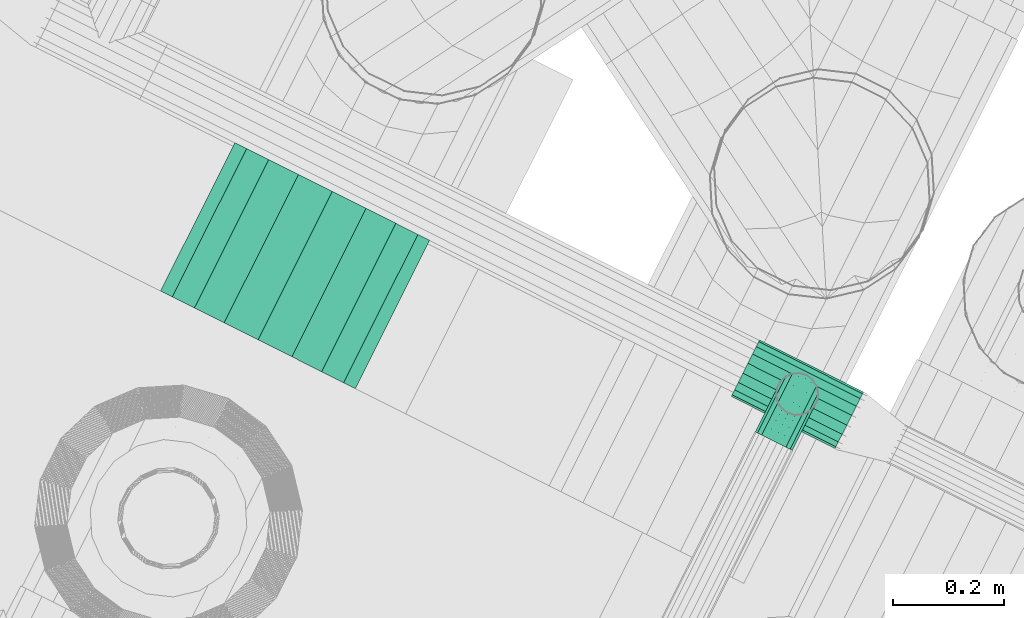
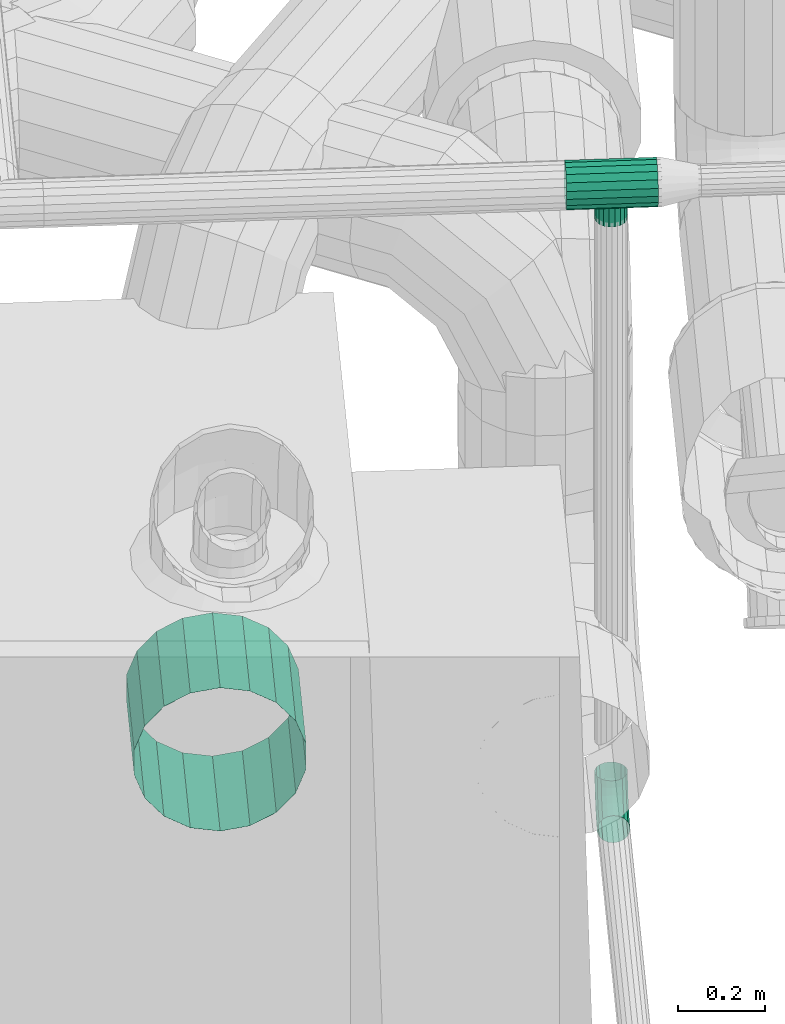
# One storey, part 130 of 206: 3 flow segments, 1 flow fitting.
"""IFC2X3 building model written with IfcOpenShell, lengths in metres."""

from ifc_helpers import new_model, si_unit, derived_unit, direction, frame, origin, place, context, subcontext, project, spatial, face_set, surface_model, source, transform, mapped, material, type_object, type_shapes, element, save


model = new_model("IFC2X3")

# Units and contexts
model_context = context("Model", 3, precision=5.2338327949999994e-05, world=origin(), true_north=direction((0.0, 1.0)))
body_context = subcontext(model_context, "Body", "Model", "MODEL_VIEW")
ifc_project = project(units=[si_unit("LENGTHUNIT", "METRE"), si_unit("AREAUNIT", "SQUARE_METRE"), si_unit("VOLUMEUNIT", "CUBIC_METRE"), si_unit("MASSUNIT", "GRAM", prefix="KILO"), si_unit("PLANEANGLEUNIT", "RADIAN"), derived_unit("THERMALTRANSMITTANCEUNIT", [(si_unit("MASSUNIT", "GRAM", prefix="KILO"), 1), (si_unit("THERMODYNAMICTEMPERATUREUNIT", "KELVIN"), -1), (si_unit("TIMEUNIT", "SECOND"), -3)])], contexts=[model_context])

# Site, building, storey
site_placement = place(None, frame((0.0, 0.0, 0.0), z_axis=(0.0, 0.0, 1.0), x_axis=(0.8939966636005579, -0.4480736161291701, 0.0)))
site = spatial("IfcSite", under=ifc_project, at=site_placement, Name="Default", CompositionType="ELEMENT")
building_placement = place(site_placement, origin())
building = spatial("IfcBuilding", under=site, at=building_placement, CompositionType="ELEMENT")
storey_placement = place(building_placement, origin())
storey = spatial("IfcBuildingStorey", under=building, at=storey_placement, Name="Erdgeschoss", CompositionType="ELEMENT", Elevation=0.0)

# Flow segments
ifc_material_1 = material(Name="IfcSurfaceStyle #352577")
distribution_element_type_1 = type_object("IfcDistributionElementType", Name="Rohrbogen 605026:Rohrbogen 605026", material=ifc_material_1)
shared_shape_1 = source(origin(), body_context, "Body", "SurfaceModel", [
    surface_model("IfcFaceBasedSurfaceModel", [(25.090640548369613, 7.9821629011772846, 0.8319499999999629), (25.07762668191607, 7.9821629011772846, 0.8342446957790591), (25.07762668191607, 8.022568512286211, 0.8406443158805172), (25.090640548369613, 8.023277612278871, 0.8384619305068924), (25.077626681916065, 8.059018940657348, 0.8592167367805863), (25.090640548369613, 8.060367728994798, 0.8573602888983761), (25.07762668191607, 8.087946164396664, 0.8881439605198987), (25.090640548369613, 8.08980261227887, 0.8867951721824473), (25.077626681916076, 8.106518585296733, 0.924594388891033), (25.090640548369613, 8.108700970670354, 0.9238852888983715), (25.077626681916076, 8.112918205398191, 0.9649999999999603), (25.090640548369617, 8.115212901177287, 0.9649999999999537), (25.066182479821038, 7.9821629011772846, 0.8408520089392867), (25.066182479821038, 8.020526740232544, 0.8469282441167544), (25.066182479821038, 8.055135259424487, 0.8645621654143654), (25.06618247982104, 8.082600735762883, 0.8920276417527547), (25.06618247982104, 8.100234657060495, 0.9266361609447), (25.06618247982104, 8.106310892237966, 0.9649999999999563), (25.057688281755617, 7.982162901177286, 0.8509749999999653), (25.057688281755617, 8.017398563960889, 0.8565557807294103), (25.057688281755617, 8.049185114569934, 0.8727518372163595), (25.057688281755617, 8.074411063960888, 0.8979777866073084), (25.05768828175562, 8.090607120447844, 0.9297643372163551), (25.05768828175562, 8.096187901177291, 0.9649999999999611), (25.0531686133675, 7.982162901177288, 0.8633926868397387), (25.0531686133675, 8.013561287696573, 0.8683657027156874), (25.0531686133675, 8.04188618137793, 0.8827979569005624), (25.0531686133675, 8.064364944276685, 0.9052767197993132), (25.053168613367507, 8.078797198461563, 0.93360161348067), (25.053168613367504, 8.083770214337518, 0.964999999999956), (25.0531686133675, 7.982162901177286, 0.8766073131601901), (25.0531686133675, 8.00947774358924, 0.880933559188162), (25.0531686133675, 8.034118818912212, 0.8934888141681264), (25.0531686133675, 8.053674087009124, 0.9130440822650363), (25.0531686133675, 8.066229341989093, 0.9376851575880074), (25.0531686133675, 8.070555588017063, 0.9649999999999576), (25.057688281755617, 7.982162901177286, 0.8890249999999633), (25.057688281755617, 8.005640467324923, 0.892743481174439), (25.05768828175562, 8.02681988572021, 0.9035349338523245), (25.05768828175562, 8.043627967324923, 0.9203430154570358), (25.057688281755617, 8.054419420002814, 0.941522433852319), (25.05768828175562, 8.058137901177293, 0.964999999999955), (25.066182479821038, 7.982162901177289, 0.8991479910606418), (25.066182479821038, 8.002512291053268, 0.9023710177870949), (25.06618247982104, 8.02086974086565, 0.9117246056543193), (25.066182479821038, 8.03543829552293, 0.9262931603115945), (25.06618247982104, 8.04479188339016, 0.944650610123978), (25.066182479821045, 8.048014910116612, 0.9649999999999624), (25.077626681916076, 7.982162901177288, 0.9057553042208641), (25.07762668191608, 8.000470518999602, 0.9086549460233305), (25.077626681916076, 8.016986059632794, 0.917070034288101), (25.077626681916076, 8.03009286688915, 0.9301768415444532), (25.077626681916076, 8.038507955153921, 0.9466923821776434), (25.077626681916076, 8.041407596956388, 0.9649999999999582), (25.090640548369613, 7.982162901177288, 0.9080499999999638), (25.090640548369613, 7.99976141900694, 0.9108373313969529), (25.090640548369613, 8.015637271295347, 0.91892648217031), (25.090640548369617, 8.02823641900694, 0.9315256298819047), (25.090640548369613, 8.036325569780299, 0.9474014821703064), (25.090640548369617, 8.03911290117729, 0.964999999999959), (25.103654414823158, 7.982162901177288, 0.9057553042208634), (25.10365441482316, 8.000470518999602, 0.9086549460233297), (25.103654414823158, 8.016986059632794, 0.9170700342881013), (25.103654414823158, 8.030092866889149, 0.9301768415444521), (25.103654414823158, 8.038507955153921, 0.9466923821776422), (25.10365441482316, 8.041407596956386, 0.9649999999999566), (25.11509861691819, 7.982162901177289, 0.8991479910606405), (25.11509861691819, 8.00251229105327, 0.9023710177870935), (25.11509861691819, 8.02086974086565, 0.9117246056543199), (25.11509861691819, 8.035438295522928, 0.9262931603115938), (25.11509861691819, 8.044791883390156, 0.944650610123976), (25.11509861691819, 8.048014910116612, 0.9649999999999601), (25.12359281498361, 7.982162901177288, 0.8890249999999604), (25.12359281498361, 8.005640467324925, 0.8927434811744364), (25.12359281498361, 8.02681988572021, 0.903534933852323), (25.12359281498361, 8.043627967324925, 0.9203430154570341), (25.12359281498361, 8.054419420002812, 0.9415224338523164), (25.123592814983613, 8.05813790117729, 0.9649999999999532), (25.12811248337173, 7.982162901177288, 0.8766073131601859), (25.12811248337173, 8.009477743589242, 0.8809335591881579), (25.12811248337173, 8.034118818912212, 0.8934888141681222), (25.12811248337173, 8.053674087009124, 0.9130440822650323), (25.12811248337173, 8.066229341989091, 0.9376851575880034), (25.128112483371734, 8.070555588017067, 0.9649999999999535), (25.12811248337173, 7.982162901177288, 0.8633926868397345), (25.12811248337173, 8.013561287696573, 0.8683657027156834), (25.12811248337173, 8.041886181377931, 0.8827979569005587), (25.12811248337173, 8.064364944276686, 0.9052767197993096), (25.128112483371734, 8.078797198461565, 0.9336016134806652), (25.128112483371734, 8.083770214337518, 0.9649999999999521), (25.12359281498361, 7.982162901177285, 0.8509749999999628), (25.12359281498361, 8.01739856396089, 0.8565557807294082), (25.12359281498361, 8.049185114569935, 0.8727518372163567), (25.12359281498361, 8.07441106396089, 0.8979777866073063), (25.123592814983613, 8.090607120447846, 0.9297643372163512), (25.123592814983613, 8.096187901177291, 0.9649999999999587), (25.115098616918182, 7.9821629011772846, 0.8408520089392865), (25.115098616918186, 8.020526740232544, 0.8469282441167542), (25.115098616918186, 8.055135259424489, 0.8645621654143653), (25.11509861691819, 8.082600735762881, 0.8920276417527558), (25.11509861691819, 8.100234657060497, 0.926636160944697), (25.11509861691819, 8.106310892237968, 0.9649999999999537), (25.10365441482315, 7.982162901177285, 0.8342446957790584), (25.10365441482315, 8.022568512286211, 0.8406443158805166), (25.10365441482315, 8.059018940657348, 0.8592167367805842), (25.103654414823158, 8.087946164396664, 0.8881439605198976), (25.103654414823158, 8.106518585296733, 0.9245943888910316), (25.103654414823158, 8.112918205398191, 0.9649999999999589)], [face_set([[[0, 1, 2, 3]], [[3, 2, 4, 5]], [[5, 4, 6, 7]], [[7, 6, 8, 9]], [[9, 8, 10, 11]], [[1, 12, 13, 2]], [[2, 13, 14, 4]], [[4, 14, 15, 6]], [[6, 15, 16, 8]], [[8, 16, 17, 10]], [[12, 18, 19, 13]], [[13, 19, 20, 14]], [[14, 20, 21, 15]], [[15, 21, 22, 16]], [[16, 22, 23, 17]], [[18, 24, 25, 19]], [[19, 25, 26, 20]], [[20, 26, 27, 21]], [[21, 27, 28, 22]], [[22, 28, 29, 23]], [[24, 30, 31, 25]], [[25, 31, 32, 26]], [[26, 32, 33, 27]], [[27, 33, 34, 28]], [[28, 34, 35, 29]], [[30, 36, 37, 31]], [[31, 37, 38, 32]], [[32, 38, 39, 33]], [[33, 39, 40, 34]], [[34, 40, 41, 35]], [[36, 42, 43, 37]], [[37, 43, 44, 38]], [[38, 44, 45, 39]], [[39, 45, 46, 40]], [[40, 46, 47, 41]], [[42, 48, 49, 43]], [[43, 49, 50, 44]], [[44, 50, 51, 45]], [[45, 51, 52, 46]], [[46, 52, 53, 47]], [[48, 54, 55, 49]], [[49, 55, 56, 50]], [[50, 56, 57, 51]], [[51, 57, 58, 52]], [[52, 58, 59, 53]], [[54, 60, 61, 55]], [[55, 61, 62, 56]], [[56, 62, 63, 57]], [[57, 63, 64, 58]], [[58, 64, 65, 59]], [[60, 66, 67, 61]], [[61, 67, 68, 62]], [[62, 68, 69, 63]], [[63, 69, 70, 64]], [[64, 70, 71, 65]], [[66, 72, 73, 67]], [[67, 73, 74, 68]], [[68, 74, 75, 69]], [[69, 75, 76, 70]], [[70, 76, 77, 71]], [[72, 78, 79, 73]], [[73, 79, 80, 74]], [[74, 80, 81, 75]], [[75, 81, 82, 76]], [[76, 82, 83, 77]], [[78, 84, 85, 79]], [[79, 85, 86, 80]], [[80, 86, 87, 81]], [[81, 87, 88, 82]], [[82, 88, 89, 83]], [[84, 90, 91, 85]], [[85, 91, 92, 86]], [[86, 92, 93, 87]], [[87, 93, 94, 88]], [[88, 94, 95, 89]], [[90, 96, 97, 91]], [[91, 97, 98, 92]], [[92, 98, 99, 93]], [[93, 99, 100, 94]], [[94, 100, 101, 95]], [[96, 102, 103, 97]], [[97, 103, 104, 98]], [[98, 104, 105, 99]], [[99, 105, 106, 100]], [[100, 106, 107, 101]], [[102, 0, 3, 103]], [[103, 3, 5, 104]], [[104, 5, 7, 105]], [[105, 7, 9, 106]], [[106, 9, 11, 107]]])]),
])
type_shapes(distribution_element_type_1, [shared_shape_1])
flow_segment_1_placement = place(storey_placement, origin())
element("IfcFlowSegment", 1, at=flow_segment_1_placement, inside=storey, type_object=distribution_element_type_1, material=ifc_material_1, Name="Rohrbogen", ObjectType="Rohrbogen", context=body_context, shape_type="MappedRepresentation", body=[
    mapped(shared_shape_1, transform((0.0, 0.0, 0.0), scale=1.0)),
])
ifc_material_2 = material(Name="IfcSurfaceStyle #251447")
distribution_element_type_2 = type_object("IfcDistributionElementType", material=ifc_material_2)
shared_shape_2 = source(origin(), body_context, "Body", "SurfaceModel", [
    surface_model("IfcFaceBasedSurfaceModel", [(24.17482169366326, 7.728208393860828, 1.4800000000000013), (24.243225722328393, 7.728208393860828, 1.4679385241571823), (24.243225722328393, 8.028208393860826, 1.4679385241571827), (24.174821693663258, 8.028208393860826, 1.4800000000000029), (24.303379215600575, 7.728208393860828, 1.4332088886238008), (24.303379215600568, 8.028208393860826, 1.4332088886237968), (24.348026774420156, 7.728208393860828, 1.380000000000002), (24.348026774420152, 8.028208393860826, 1.379999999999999), (24.371783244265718, 7.728208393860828, 1.3147296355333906), (24.3717832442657, 8.028208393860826, 1.3147296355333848), (24.371783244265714, 7.728208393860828, 1.2452703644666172), (24.371783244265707, 8.028208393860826, 1.2452703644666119), (24.348026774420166, 7.728208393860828, 1.1800000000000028), (24.348026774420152, 8.028208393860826, 1.1799999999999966), (24.30337921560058, 7.728208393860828, 1.1267911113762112), (24.303379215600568, 8.028208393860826, 1.1267911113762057), (24.243225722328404, 7.728208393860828, 1.092061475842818), (24.24322572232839, 8.028208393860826, 1.0920614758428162), (24.174821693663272, 7.728208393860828, 1.079999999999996), (24.174821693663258, 8.028208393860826, 1.08), (24.10641766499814, 7.728208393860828, 1.092061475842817), (24.106417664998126, 8.028208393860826, 1.0920614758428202), (24.046264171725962, 7.728208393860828, 1.1267911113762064), (24.046264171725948, 8.028208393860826, 1.1267911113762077), (24.001616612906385, 7.728208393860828, 1.179999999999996), (24.00161661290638, 8.028208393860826, 1.1800000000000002), (23.97786014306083, 7.728208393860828, 1.2452703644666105), (23.97786014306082, 8.028208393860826, 1.245270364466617), (23.97786014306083, 7.728208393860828, 1.3147296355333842), (23.97786014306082, 8.028208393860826, 1.3147296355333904), (24.001616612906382, 7.728208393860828, 1.3799999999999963), (24.00161661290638, 8.028208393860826, 1.3800000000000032), (24.046264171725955, 7.728208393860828, 1.4332088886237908), (24.046264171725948, 8.028208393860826, 1.4332088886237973), (24.10641766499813, 7.728208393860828, 1.467938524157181), (24.10641766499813, 8.028208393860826, 1.4679385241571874)], [face_set([[[0, 1, 2, 3]], [[1, 4, 5, 2]], [[4, 6, 7, 5]], [[6, 8, 9, 7]], [[8, 10, 11, 9]], [[10, 12, 13, 11]], [[12, 14, 15, 13]], [[14, 16, 17, 15]], [[16, 18, 19, 17]], [[18, 20, 21, 19]], [[20, 22, 23, 21]], [[22, 24, 25, 23]], [[24, 26, 27, 25]], [[26, 28, 29, 27]], [[28, 30, 31, 29]], [[30, 32, 33, 31]], [[32, 34, 35, 33]], [[34, 0, 3, 35]]])]),
])
type_shapes(distribution_element_type_2, [shared_shape_2])
flow_segment_2_placement = place(storey_placement, origin())
element("IfcFlowSegment", 2, at=flow_segment_2_placement, inside=storey, type_object=distribution_element_type_2, material=ifc_material_2, Name="Wickelfalzrohr", ObjectType="Wickelfalzrohr", context=body_context, shape_type="MappedRepresentation", body=[
    mapped(shared_shape_2, transform((0.0, 0.0, 0.0), scale=1.0)),
])
distribution_element_type_3 = type_object("IfcDistributionElementType", material=ifc_material_2)
shared_shape_3 = source(origin(), body_context, "Body", "SurfaceModel", [
    surface_model("IfcFaceBasedSurfaceModel", [(24.17482169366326, 7.728208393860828, 1.4800000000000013), (24.243225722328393, 7.728208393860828, 1.4679385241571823), (24.243225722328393, 8.028208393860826, 1.4679385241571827), (24.174821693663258, 8.028208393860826, 1.4800000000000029), (24.303379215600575, 7.728208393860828, 1.4332088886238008), (24.303379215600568, 8.028208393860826, 1.4332088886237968), (24.348026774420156, 7.728208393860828, 1.380000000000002), (24.348026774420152, 8.028208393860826, 1.379999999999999), (24.371783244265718, 7.728208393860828, 1.3147296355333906), (24.3717832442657, 8.028208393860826, 1.3147296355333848), (24.371783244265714, 7.728208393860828, 1.2452703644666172), (24.371783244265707, 8.028208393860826, 1.2452703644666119), (24.348026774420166, 7.728208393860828, 1.1800000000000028), (24.348026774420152, 8.028208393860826, 1.1799999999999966), (24.30337921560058, 7.728208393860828, 1.1267911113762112), (24.303379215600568, 8.028208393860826, 1.1267911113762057), (24.243225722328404, 7.728208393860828, 1.092061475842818), (24.24322572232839, 8.028208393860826, 1.0920614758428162), (24.174821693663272, 7.728208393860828, 1.079999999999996), (24.174821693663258, 8.028208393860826, 1.08), (24.10641766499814, 7.728208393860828, 1.092061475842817), (24.106417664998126, 8.028208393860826, 1.0920614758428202), (24.046264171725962, 7.728208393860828, 1.1267911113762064), (24.046264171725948, 8.028208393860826, 1.1267911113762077), (24.001616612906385, 7.728208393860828, 1.179999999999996), (24.00161661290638, 8.028208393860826, 1.1800000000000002), (23.97786014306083, 7.728208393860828, 1.2452703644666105), (23.97786014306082, 8.028208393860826, 1.245270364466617), (23.97786014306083, 7.728208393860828, 1.3147296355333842), (23.97786014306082, 8.028208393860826, 1.3147296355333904), (24.001616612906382, 7.728208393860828, 1.3799999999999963), (24.00161661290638, 8.028208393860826, 1.3800000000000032), (24.046264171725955, 7.728208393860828, 1.4332088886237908), (24.046264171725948, 8.028208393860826, 1.4332088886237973), (24.10641766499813, 7.728208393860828, 1.467938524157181), (24.10641766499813, 8.028208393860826, 1.4679385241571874)], [face_set([[[0, 1, 2, 3]], [[1, 4, 5, 2]], [[4, 6, 7, 5]], [[6, 8, 9, 7]], [[8, 10, 11, 9]], [[10, 12, 13, 11]], [[12, 14, 15, 13]], [[14, 16, 17, 15]], [[16, 18, 19, 17]], [[18, 20, 21, 19]], [[20, 22, 23, 21]], [[22, 24, 25, 23]], [[24, 26, 27, 25]], [[26, 28, 29, 27]], [[28, 30, 31, 29]], [[30, 32, 33, 31]], [[32, 34, 35, 33]], [[34, 0, 3, 35]]])]),
])
type_shapes(distribution_element_type_3, [shared_shape_3])
flow_segment_3_placement = place(storey_placement, origin())
element("IfcFlowSegment", 3, at=flow_segment_3_placement, inside=storey, type_object=distribution_element_type_3, material=ifc_material_2, Name="Wickelfalzrohr", ObjectType="Wickelfalzrohr", context=body_context, shape_type="MappedRepresentation", body=[
    mapped(shared_shape_3, transform((0.0, 0.0, 0.0), scale=1.0)),
])

# Flow fitting
distribution_element_type_4 = type_object("IfcDistributionElementType", Name="Abzweigstück 848954:Abzweigstück 848954", material=ifc_material_1)
shared_shape_4 = source(origin(), body_context, "Body", "SurfaceModel", [
    surface_model("IfcFaceBasedSurfaceModel", [(25.19564054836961, 8.020012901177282, 2.605164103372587), (25.19564054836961, 8.02345946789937, 2.62471055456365), (24.985640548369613, 8.02345946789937, 2.62471055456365), (24.985640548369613, 8.020012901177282, 2.605164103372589), (25.19564054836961, 8.033383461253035, 2.641899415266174), (24.985640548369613, 8.033383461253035, 2.6418994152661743), (25.19564054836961, 8.04858790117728, 2.654657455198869), (24.985640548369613, 8.04858790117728, 2.6546574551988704), (25.19564054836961, 8.067238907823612, 2.661445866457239), (24.985640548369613, 8.067238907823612, 2.661445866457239), (25.19564054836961, 8.087086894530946, 2.661445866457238), (24.985640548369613, 8.087086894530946, 2.6614458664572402), (25.19564054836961, 8.105737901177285, 2.654657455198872), (24.985640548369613, 8.105737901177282, 2.654657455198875), (25.19564054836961, 8.120942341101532, 2.6418994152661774), (24.985640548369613, 8.120942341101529, 2.6418994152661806), (25.19564054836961, 8.130866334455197, 2.624710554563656), (24.985640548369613, 8.130866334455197, 2.624710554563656), (25.19564054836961, 8.134312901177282, 2.6051641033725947), (24.985640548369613, 8.134312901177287, 2.6051641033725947), (25.19564054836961, 8.130866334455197, 2.5856176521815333), (24.985640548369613, 8.1308663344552, 2.585617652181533), (25.19564054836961, 8.120942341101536, 2.568428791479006), (24.985640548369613, 8.120942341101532, 2.5684287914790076), (25.19564054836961, 8.10573790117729, 2.5556707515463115), (24.985640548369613, 8.105737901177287, 2.5556707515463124), (25.19564054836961, 8.08708689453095, 2.5488823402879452), (24.985640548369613, 8.087086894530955, 2.548882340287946), (25.19564054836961, 8.067238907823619, 2.5488823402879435), (24.985640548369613, 8.067238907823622, 2.548882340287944), (25.19564054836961, 8.048587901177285, 2.5556707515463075), (24.985640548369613, 8.048587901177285, 2.5556707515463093), (25.19564054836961, 8.033383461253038, 2.568428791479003), (24.985640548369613, 8.033383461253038, 2.568428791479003), (25.19564054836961, 8.02345946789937, 2.5856176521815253), (24.985640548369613, 8.023459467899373, 2.585617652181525), (25.052590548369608, 8.077162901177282, 2.548014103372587), (25.054885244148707, 8.090176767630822, 2.5495155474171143), (25.05488524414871, 8.090176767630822, 2.510164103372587), (25.052590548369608, 8.077162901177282, 2.510164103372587), (25.061492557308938, 8.101620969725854, 2.553512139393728), (25.061492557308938, 8.10162096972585, 2.5101641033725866), (25.07161554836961, 8.11011516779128, 2.55847073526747), (25.07161554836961, 8.11011516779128, 2.5101641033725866), (25.084033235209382, 8.114634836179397, 2.5620134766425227), (25.084033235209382, 8.114634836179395, 2.5101641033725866), (25.097247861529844, 8.114634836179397, 2.5620134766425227), (25.097247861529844, 8.114634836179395, 2.5101641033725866), (25.109665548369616, 8.110115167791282, 2.55847073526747), (25.109665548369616, 8.11011516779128, 2.5101641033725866), (25.11978853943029, 8.101620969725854, 2.553512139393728), (25.11978853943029, 8.101620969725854, 2.5101641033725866), (25.126395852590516, 8.09017676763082, 2.5495155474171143), (25.126395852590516, 8.09017676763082, 2.510164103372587), (25.12869054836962, 8.077162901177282, 2.548014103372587), (25.12869054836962, 8.077162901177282, 2.510164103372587), (25.126395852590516, 8.06414903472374, 2.549515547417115), (25.126395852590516, 8.064149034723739, 2.510164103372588), (25.11978853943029, 8.052704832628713, 2.553512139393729), (25.11978853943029, 8.052704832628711, 2.510164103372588), (25.109665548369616, 8.044210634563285, 2.5584707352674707), (25.109665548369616, 8.044210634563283, 2.5101641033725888), (25.097247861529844, 8.039690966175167, 2.5620134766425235), (25.097247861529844, 8.039690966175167, 2.5101641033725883), (25.084033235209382, 8.039690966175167, 2.5620134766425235), (25.084033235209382, 8.039690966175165, 2.5101641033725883), (25.07161554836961, 8.044210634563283, 2.5584707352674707), (25.07161554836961, 8.044210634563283, 2.5101641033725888), (25.06149255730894, 8.052704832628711, 2.553512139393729), (25.061492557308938, 8.05270483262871, 2.510164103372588), (25.05488524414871, 8.064149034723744, 2.549515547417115), (25.05488524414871, 8.06414903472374, 2.510164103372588)], [face_set([[[0, 1, 2, 3]], [[1, 4, 5, 2]], [[4, 6, 7, 5]], [[6, 8, 9, 7]], [[8, 10, 11, 9]], [[10, 12, 13, 11]], [[12, 14, 15, 13]], [[14, 16, 17, 15]], [[16, 18, 19, 17]], [[18, 20, 21, 19]], [[20, 22, 23, 21]], [[22, 24, 25, 23]], [[24, 26, 27, 25]], [[26, 28, 29, 27]], [[28, 30, 31, 29]], [[30, 32, 33, 31]], [[32, 34, 35, 33]], [[34, 0, 3, 35]], [[36, 37, 38, 39]], [[37, 40, 41, 38]], [[40, 42, 43, 41]], [[42, 44, 45, 43]], [[44, 46, 47, 45]], [[46, 48, 49, 47]], [[48, 50, 51, 49]], [[50, 52, 53, 51]], [[52, 54, 55, 53]], [[54, 56, 57, 55]], [[56, 58, 59, 57]], [[58, 60, 61, 59]], [[60, 62, 63, 61]], [[62, 64, 65, 63]], [[64, 66, 67, 65]], [[66, 68, 69, 67]], [[68, 70, 71, 69]], [[70, 36, 39, 71]]])]),
])
type_shapes(distribution_element_type_4, [shared_shape_4])
flow_fitting_placement = place(storey_placement, origin())
element("IfcFlowFitting", 4, at=flow_fitting_placement, inside=storey, type_object=distribution_element_type_4, material=ifc_material_1, Name="Abzweigstück", ObjectType="Abzweigstück", context=body_context, shape_type="MappedRepresentation", body=[
    mapped(shared_shape_4, transform((0.0, 0.0, 0.0), scale=1.0)),
])

save(model, "model.ifc")
